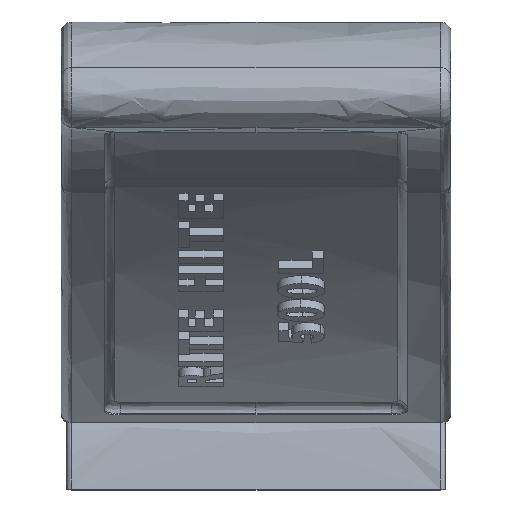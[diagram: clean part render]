
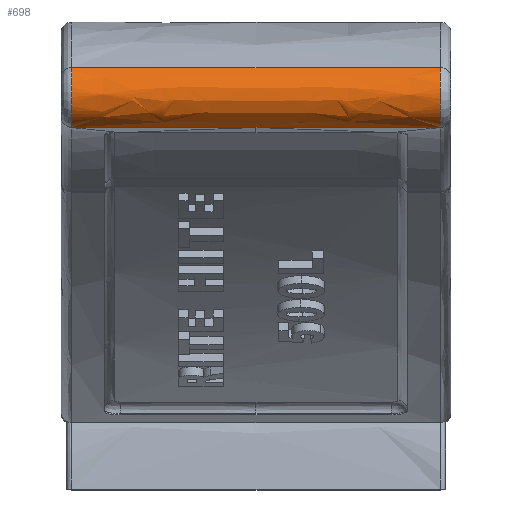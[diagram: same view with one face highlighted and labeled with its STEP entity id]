
A CAD part, top view. The second image highlights one B-rep face of the part: STEP entity #698.
In plain terms, the highlighted free-form (B-spline) face has degree [2, 1] with [5, 2] control points.
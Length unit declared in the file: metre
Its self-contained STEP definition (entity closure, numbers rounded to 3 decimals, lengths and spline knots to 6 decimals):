
#698 = ADVANCED_FACE( '', ( #1691 ), #1692, .T. );
#1691 = FACE_OUTER_BOUND( '', #5216, .T. );
#1692 = ( BOUNDED_SURFACE(  )B_SPLINE_SURFACE( 2, 1, ( ( #5219, #5220 ), ( #5221, #5222 ), ( #5223, #5224 ), ( #5225, #5226 ), ( #5227, #5228 ) ), .UNSPECIFIED., .F., .F., .F. )B_SPLINE_SURFACE_WITH_KNOTS( ( 3, 2, 3 ), ( 2, 2 ), ( 0., 0.25, 0.379871 ), ( 0.021885, 0.978115 ), .UNSPECIFIED. )GEOMETRIC_REPRESENTATION_ITEM(  )RATIONAL_B_SPLINE_SURFACE( ( ( 1., 1. ), ( 0.707, 0.707 ), ( 1., 1. ), ( 0.848, 0.848 ), ( 0.854, 0.854 ) ) )REPRESENTATION_ITEM( '' )SURFACE(  ) );
#5216 = EDGE_LOOP( '', ( #11933, #11934, #11935, #11936, #11937 ) );
#5219 = CARTESIAN_POINT( '', ( -0.017212, 0.038816, 0.086538 ) );
#5220 = CARTESIAN_POINT( '', ( 0.017212, 0.038816, 0.086538 ) );
#5221 = CARTESIAN_POINT( '', ( -0.017212, 0.037278, 0.089114 ) );
#5222 = CARTESIAN_POINT( '', ( 0.017212, 0.037278, 0.089114 ) );
#5223 = CARTESIAN_POINT( '', ( -0.017212, 0.034702, 0.087575 ) );
#5224 = CARTESIAN_POINT( '', ( 0.017212, 0.034702, 0.087575 ) );
#5225 = CARTESIAN_POINT( '', ( -0.017212, 0.033586, 0.086909 ) );
#5226 = CARTESIAN_POINT( '', ( 0.017212, 0.033586, 0.086909 ) );
#5227 = CARTESIAN_POINT( '', ( -0.017212, 0.03331, 0.085639 ) );
#5228 = CARTESIAN_POINT( '', ( 0.017212, 0.03331, 0.085639 ) );
#11933 = ORIENTED_EDGE( '', *, *, #14447, .F. );
#11934 = ORIENTED_EDGE( '', *, *, #14448, .F. );
#11935 = ORIENTED_EDGE( '', *, *, #13886, .T. );
#11936 = ORIENTED_EDGE( '', *, *, #14449, .T. );
#11937 = ORIENTED_EDGE( '', *, *, #14379, .T. );
#13886 = EDGE_CURVE( '', #15448, #15453, #15455, .T. );
#14379 = EDGE_CURVE( '', #16277, #16282, #16284, .T. );
#14447 = EDGE_CURVE( '', #16390, #16282, #16391, .T. );
#14448 = EDGE_CURVE( '', #15448, #16390, #16392, .T. );
#14449 = EDGE_CURVE( '', #15453, #16277, #16393, .T. );
#15448 = VERTEX_POINT( '', #17978 );
#15453 = VERTEX_POINT( '', #18024 );
#15455 = ( BOUNDED_CURVE(  )B_SPLINE_CURVE( 2, ( #18039, #18040, #18041, #18042, #18043 ), .UNSPECIFIED., .F., .F. )B_SPLINE_CURVE_WITH_KNOTS( ( 3, 2, 3 ), ( 0., 0.658119, 1. ), .UNSPECIFIED. )CURVE(  )GEOMETRIC_REPRESENTATION_ITEM(  )RATIONAL_B_SPLINE_CURVE( ( 1., 0.707, 1., 0.848, 0.854 ) )REPRESENTATION_ITEM( '' ) );
#16277 = VERTEX_POINT( '', #21755 );
#16282 = VERTEX_POINT( '', #21777 );
#16284 = ( BOUNDED_CURVE(  )B_SPLINE_CURVE( 1, ( #21790, #21791 ), .UNSPECIFIED., .F., .F. )B_SPLINE_CURVE_WITH_KNOTS( ( 2, 2 ), ( 0., 0.944444 ), .UNSPECIFIED. )CURVE(  )GEOMETRIC_REPRESENTATION_ITEM(  )RATIONAL_B_SPLINE_CURVE( ( 0.854, 0.854 ) )REPRESENTATION_ITEM( '' ) );
#16390 = VERTEX_POINT( '', #22284 );
#16391 = B_SPLINE_CURVE_WITH_KNOTS( '', 3, ( #22285, #22286, #22287, #22288, #22289, #22290, #22291, #22292, #22293, #22294, #22295, #22296, #22297, #22298, #22299, #22300, #22301, #22302, #22303, #22304, #22305, #22306, #22307, #22308, #22309, #22310, #22311, #22312, #22313 ), .UNSPECIFIED., .F., .F., ( 4, 1, 1, 1, 1, 1, 1, 1, 1, 1, 1, 1, 1, 1, 1, 1, 1, 1, 1, 1, 1, 1, 1, 1, 1, 1, 4 ), ( 0.115277, 0.11541, 0.116604, 0.117975, 0.119219, 0.120538, 0.121985, 0.123518, 0.125167, 0.126557, 0.128033, 0.129276, 0.130595, 0.131859, 0.133123, 0.134442, 0.135686, 0.137162, 0.138552, 0.140201, 0.141734, 0.143181, 0.1445, 0.145743, 0.147219, 0.148339, 0.148446 ), .UNSPECIFIED. );
#16392 = ( BOUNDED_CURVE(  )B_SPLINE_CURVE( 1, ( #22316, #22317 ), .UNSPECIFIED., .F., .F. )B_SPLINE_CURVE_WITH_KNOTS( ( 2, 2 ), ( 0.027778, 0.972222 ), .UNSPECIFIED. )CURVE(  )GEOMETRIC_REPRESENTATION_ITEM(  )RATIONAL_B_SPLINE_CURVE( ( 0.908, 0.908 ) )REPRESENTATION_ITEM( '' ) );
#16393 = ( BOUNDED_CURVE(  )B_SPLINE_CURVE( 1, ( #22325, #22326 ), .UNSPECIFIED., .F., .F. )B_SPLINE_CURVE_WITH_KNOTS( ( 2, 2 ), ( 0.055556, 1. ), .UNSPECIFIED. )CURVE(  )GEOMETRIC_REPRESENTATION_ITEM(  )RATIONAL_B_SPLINE_CURVE( ( 0.854, 0.854 ) )REPRESENTATION_ITEM( '' ) );
#17978 = CARTESIAN_POINT( '', ( -0.017, 0.038816, 0.086539 ) );
#18024 = CARTESIAN_POINT( '', ( -0.017, 0.033309, 0.085637 ) );
#18039 = CARTESIAN_POINT( '', ( -0.017, 0.038816, 0.086538 ) );
#18040 = CARTESIAN_POINT( '', ( -0.017, 0.037278, 0.089114 ) );
#18041 = CARTESIAN_POINT( '', ( -0.017, 0.034702, 0.087575 ) );
#18042 = CARTESIAN_POINT( '', ( -0.017, 0.033586, 0.086909 ) );
#18043 = CARTESIAN_POINT( '', ( -0.017, 0.03331, 0.085639 ) );
#21755 = CARTESIAN_POINT( '', ( 0., 0.03331, 0.085639 ) );
#21777 = CARTESIAN_POINT( '', ( 0.017, 0.033309, 0.085639 ) );
#21790 = CARTESIAN_POINT( '', ( 0., 0.03331, 0.085639 ) );
#21791 = CARTESIAN_POINT( '', ( 0.017, 0.03331, 0.085639 ) );
#22284 = CARTESIAN_POINT( '', ( 0.017, 0.038816, 0.086538 ) );
#22285 = CARTESIAN_POINT( '', ( 0.017, 0.038816, 0.086538 ) );
#22286 = CARTESIAN_POINT( '', ( 0.017, 0.038812, 0.086546 ) );
#22287 = CARTESIAN_POINT( '', ( 0.017, 0.038766, 0.08662 ) );
#22288 = CARTESIAN_POINT( '', ( 0.017, 0.038652, 0.086794 ) );
#22289 = CARTESIAN_POINT( '', ( 0.017, 0.038481, 0.087002 ) );
#22290 = CARTESIAN_POINT( '', ( 0.017, 0.038281, 0.087205 ) );
#22291 = CARTESIAN_POINT( '', ( 0.017, 0.03806, 0.087391 ) );
#22292 = CARTESIAN_POINT( '', ( 0.017, 0.037804, 0.087567 ) );
#22293 = CARTESIAN_POINT( '', ( 0.017, 0.03751, 0.087725 ) );
#22294 = CARTESIAN_POINT( '', ( 0.017, 0.037204, 0.087847 ) );
#22295 = CARTESIAN_POINT( '', ( 0.017, 0.03689, 0.087934 ) );
#22296 = CARTESIAN_POINT( '', ( 0.017, 0.036598, 0.087984 ) );
#22297 = CARTESIAN_POINT( '', ( 0.017, 0.036307, 0.088004 ) );
#22298 = CARTESIAN_POINT( '', ( 0.017, 0.036032, 0.087997 ) );
#22299 = CARTESIAN_POINT( '', ( 0.017, 0.035756, 0.087965 ) );
#22300 = CARTESIAN_POINT( '', ( 0.017, 0.035485, 0.087908 ) );
#22301 = CARTESIAN_POINT( '', ( 0.017, 0.035221, 0.087826 ) );
#22302 = CARTESIAN_POINT( '', ( 0.017, 0.034952, 0.087715 ) );
#22303 = CARTESIAN_POINT( '', ( 0.017, 0.034691, 0.087575 ) );
#22304 = CARTESIAN_POINT( '', ( 0.017, 0.034421, 0.087393 ) );
#22305 = CARTESIAN_POINT( '', ( 0.017, 0.034169, 0.087179 ) );
#22306 = CARTESIAN_POINT( '', ( 0.017, 0.033941, 0.086935 ) );
#22307 = CARTESIAN_POINT( '', ( 0.017, 0.033754, 0.086688 ) );
#22308 = CARTESIAN_POINT( '', ( 0.017, 0.033604, 0.086441 ) );
#22309 = CARTESIAN_POINT( '', ( 0.017, 0.033477, 0.086179 ) );
#22310 = CARTESIAN_POINT( '', ( 0.017, 0.03338, 0.085918 ) );
#22311 = CARTESIAN_POINT( '', ( 0.017, 0.03333, 0.085735 ) );
#22312 = CARTESIAN_POINT( '', ( 0.017, 0.033311, 0.085647 ) );
#22313 = CARTESIAN_POINT( '', ( 0.017, 0.033309, 0.085639 ) );
#22316 = CARTESIAN_POINT( '', ( -0.017, 0.038816, 0.086538 ) );
#22317 = CARTESIAN_POINT( '', ( 0.017, 0.038816, 0.086538 ) );
#22325 = CARTESIAN_POINT( '', ( -0.017, 0.03331, 0.085639 ) );
#22326 = CARTESIAN_POINT( '', ( 0., 0.03331, 0.085639 ) );
